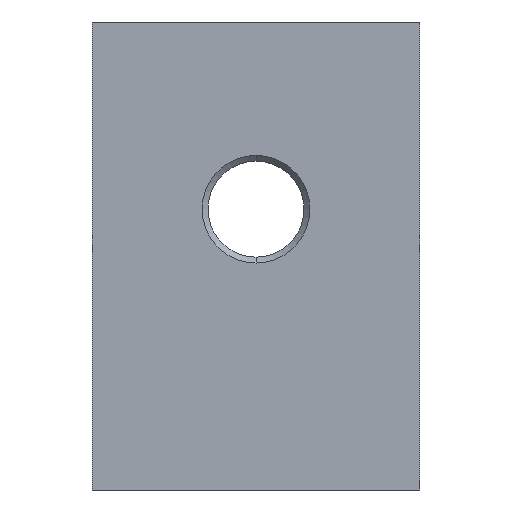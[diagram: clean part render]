
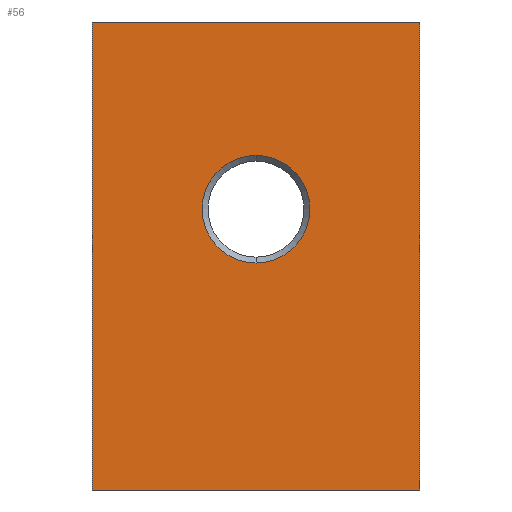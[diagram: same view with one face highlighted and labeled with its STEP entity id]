
A CAD part, front view. The second image highlights one B-rep face of the part: STEP entity #56.
In plain terms, the highlighted planar face has unit normal (0, -1, 0).
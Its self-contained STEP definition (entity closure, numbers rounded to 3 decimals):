
#15 = VERTEX_POINT ( 'NONE', #802 ) ;
#29 = FACE_BOUND ( 'NONE', #593, .T. ) ;
#42 = DIRECTION ( 'NONE',  ( 0., 0., 1. ) ) ;
#44 = LINE ( 'NONE', #305, #776 ) ;
#49 = EDGE_CURVE ( 'NONE', #120, #748, #558, .T. ) ;
#50 = VERTEX_POINT ( 'NONE', #99 ) ;
#52 = ORIENTED_EDGE ( 'NONE', *, *, #799, .F. ) ;
#56 = ADVANCED_FACE ( 'NONE', ( #29, #202 ), #327, .F. ) ;
#57 = DIRECTION ( 'NONE',  ( 0., 1., 0. ) ) ;
#58 = ORIENTED_EDGE ( 'NONE', *, *, #179, .F. ) ;
#73 = VECTOR ( 'NONE', #707, 1000. ) ;
#99 = CARTESIAN_POINT ( 'NONE',  ( -14., 0., -20. ) ) ;
#120 = VERTEX_POINT ( 'NONE', #819 ) ;
#171 = ORIENTED_EDGE ( 'NONE', *, *, #694, .T. ) ;
#178 = CARTESIAN_POINT ( 'NONE',  ( -14., 0., -20. ) ) ;
#179 = EDGE_CURVE ( 'NONE', #345, #50, #289, .T. ) ;
#202 = FACE_OUTER_BOUND ( 'NONE', #858, .T. ) ;
#225 = ORIENTED_EDGE ( 'NONE', *, *, #49, .T. ) ;
#227 = CARTESIAN_POINT ( 'NONE',  ( 0., 0., -0.6 ) ) ;
#271 = VECTOR ( 'NONE', #508, 1000. ) ;
#289 = LINE ( 'NONE', #178, #271 ) ;
#305 = CARTESIAN_POINT ( 'NONE',  ( -14., 0., -20. ) ) ;
#311 = CIRCLE ( 'NONE', #369, 4.6 ) ;
#324 = CARTESIAN_POINT ( 'NONE',  ( 14., 0., -20. ) ) ;
#327 = PLANE ( 'NONE',  #542 ) ;
#345 = VERTEX_POINT ( 'NONE', #854 ) ;
#369 = AXIS2_PLACEMENT_3D ( 'NONE', #848, #444, #42 ) ;
#385 = DIRECTION ( 'NONE',  ( 0., 1., 0. ) ) ;
#399 = AXIS2_PLACEMENT_3D ( 'NONE', #790, #385, #862 ) ;
#444 = DIRECTION ( 'NONE',  ( 0., 1., 0. ) ) ;
#456 = DIRECTION ( 'NONE',  ( 0., 0., -1. ) ) ;
#458 = CARTESIAN_POINT ( 'NONE',  ( 0., 0., 0. ) ) ;
#479 = VERTEX_POINT ( 'NONE', #537 ) ;
#508 = DIRECTION ( 'NONE',  ( -1., 0., 0. ) ) ;
#510 = LINE ( 'NONE', #324, #680 ) ;
#527 = DIRECTION ( 'NONE',  ( 0., 0., 1. ) ) ;
#537 = CARTESIAN_POINT ( 'NONE',  ( -14., 0., 20. ) ) ;
#542 = AXIS2_PLACEMENT_3D ( 'NONE', #458, #57, #527 ) ;
#545 = LINE ( 'NONE', #835, #73 ) ;
#547 = EDGE_CURVE ( 'NONE', #479, #15, #545, .T. ) ;
#558 = CIRCLE ( 'NONE', #399, 4.6 ) ;
#593 = EDGE_LOOP ( 'NONE', ( #171, #225 ) ) ;
#647 = EDGE_CURVE ( 'NONE', #15, #345, #510, .T. ) ;
#680 = VECTOR ( 'NONE', #456, 1000. ) ;
#694 = EDGE_CURVE ( 'NONE', #748, #120, #311, .T. ) ;
#707 = DIRECTION ( 'NONE',  ( 1., 0., 0. ) ) ;
#708 = DIRECTION ( 'NONE',  ( 0., 0., 1. ) ) ;
#748 = VERTEX_POINT ( 'NONE', #227 ) ;
#776 = VECTOR ( 'NONE', #708, 1000. ) ;
#790 = CARTESIAN_POINT ( 'NONE',  ( 0., 0., 4. ) ) ;
#799 = EDGE_CURVE ( 'NONE', #50, #479, #44, .T. ) ;
#802 = CARTESIAN_POINT ( 'NONE',  ( 14., 0., 20. ) ) ;
#804 = ORIENTED_EDGE ( 'NONE', *, *, #647, .F. ) ;
#819 = CARTESIAN_POINT ( 'NONE',  ( 0., 0., 8.6 ) ) ;
#835 = CARTESIAN_POINT ( 'NONE',  ( -14., 0., 20. ) ) ;
#837 = ORIENTED_EDGE ( 'NONE', *, *, #547, .F. ) ;
#848 = CARTESIAN_POINT ( 'NONE',  ( 0., 0., 4. ) ) ;
#854 = CARTESIAN_POINT ( 'NONE',  ( 14., 0., -20. ) ) ;
#858 = EDGE_LOOP ( 'NONE', ( #804, #837, #52, #58 ) ) ;
#862 = DIRECTION ( 'NONE',  ( 0., 0., 1. ) ) ;
